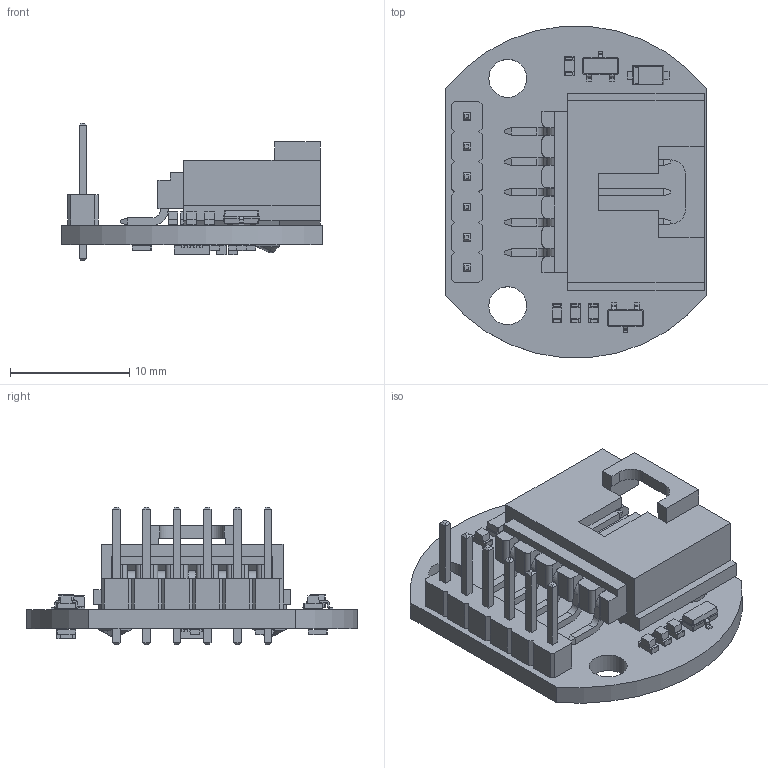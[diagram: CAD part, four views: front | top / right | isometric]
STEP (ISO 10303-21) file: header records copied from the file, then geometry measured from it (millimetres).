
FILE_DESCRIPTION(('KiCad electronic assembly'),'2;1');
FILE_NAME('mag-encoder.step','2024-08-30T21:19:02',('Pcbnew'),('Kicad'), 'Open CASCADE STEP processor 7.6','KiCad to STEP converter','Unknown' );
FILE_SCHEMA(('AUTOMOTIVE_DESIGN { 1 0 10303 214 1 1 1 1 }'));
Length unit declared in the file: millimetre
Products named in the file (18): mag-encoder 1; LED_0603_1608Metric; SOT-23; SOT_23; Molex-015912055; 015912055; PinHeader_1x06_P2.54mm_Vertical; PinHeader_1x06_P254mm_Vertical; D_SOD-123F; D_SOD_123F; R_0603_1608Metric; C_0603_1608Metric; QFN-16-1EP_3x3mm_P0.5mm_EP1.7x1.7mm; mag-encoder_PCB
Assembly tree (29 placements, depth 3):
  mag-encoder 1
    LED_0603_1608Metric  x4
      LED_0603_1608Metric
    SOT-23  x2
      SOT_23
    Molex-015912055
      015912055
    PinHeader_1x06_P2.54mm_Vertical
      PinHeader_1x06_P254mm_Vertical
    D_SOD-123F
      D_SOD_123F
    R_0603_1608Metric  x7
      R_0603_1608Metric
    C_0603_1608Metric  x3
      C_0603_1608Metric
    QFN-16-1EP_3x3mm_P0.5mm_EP1.7x1.7mm
      QFN-16-1EP_3x3mm_P0.5mm_EP1.7x1.7mm
    mag-encoder_PCB
Bounding box: 21.84 x 27.75 x 11.54 mm (x, y, z)
Volume: 1559.2 mm3; surface area: 2993 mm2
Topology: 26 solids, 26 shells, 1172 faces, 3065 edges, 1992 vertices
Faces by surface type: plane 902, cylinder 204, bspline 66
Full cylindrical faces by diameter (mm): 0.2 x1, 1 x6, 3.175 x2, 3.4 x2
Entity records: 25956 total; most frequent: CARTESIAN_POINT 4315, ORIENTED_EDGE 3812, DIRECTION 3510, EDGE_CURVE 1906, LINE 1688, VECTOR 1688, VERTEX_POINT 1212, AXIS2_PLACEMENT_3D 911
